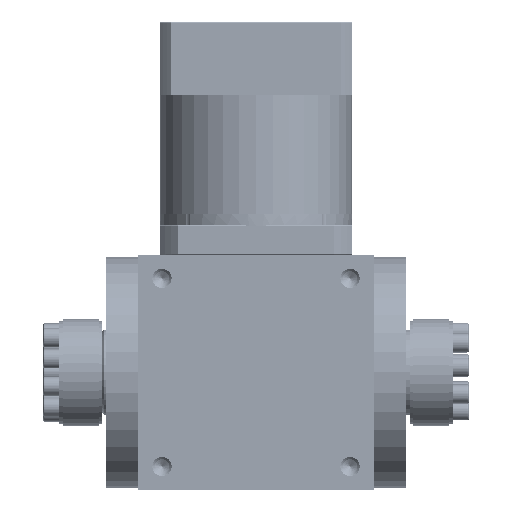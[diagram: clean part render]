
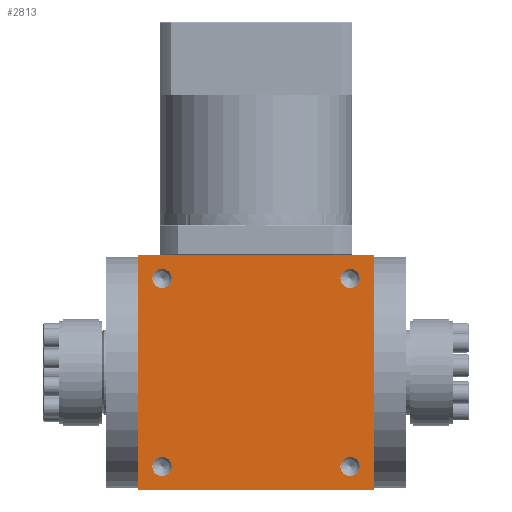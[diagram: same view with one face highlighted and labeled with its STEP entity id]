
A CAD part, front view. The second image highlights one B-rep face of the part: STEP entity #2813.
In plain terms, the highlighted planar face has unit normal (0, -1, 0).
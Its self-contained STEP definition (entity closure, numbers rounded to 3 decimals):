
#594 = DIRECTION ( 'NONE',  ( 1., 0., 0. ) ) ;
#786 = DIRECTION ( 'NONE',  ( 0., 1., 0. ) ) ;
#1439 = FACE_BOUND ( 'NONE', #98002, .T. ) ;
#2006 = EDGE_LOOP ( 'NONE', ( #13039, #17090 ) ) ;
#2813 = ADVANCED_FACE ( 'NONE', ( #124175, #54389, #1439, #92698, #41692 ), #84605, .F. ) ;
#3221 = EDGE_CURVE ( 'NONE', #75127, #5554, #11164, .T. ) ;
#3414 = CARTESIAN_POINT ( 'NONE',  ( -76.995, -34.318, 199. ) ) ;
#4735 = CARTESIAN_POINT ( 'NONE',  ( -120.995, -34.318, 155. ) ) ;
#5554 = VERTEX_POINT ( 'NONE', #57833 ) ;
#8090 = LINE ( 'NONE', #10720, #113641 ) ;
#10720 = CARTESIAN_POINT ( 'NONE',  ( -131.995, -34.318, 144. ) ) ;
#11164 = CIRCLE ( 'NONE', #21877, 4.5 ) ;
#12448 = VERTEX_POINT ( 'NONE', #99244 ) ;
#12496 = CARTESIAN_POINT ( 'NONE',  ( -116.495, -34.318, 155. ) ) ;
#12805 = DIRECTION ( 'NONE',  ( 1., 0., 0. ) ) ;
#13039 = ORIENTED_EDGE ( 'NONE', *, *, #3221, .F. ) ;
#13400 = VERTEX_POINT ( 'NONE', #12496 ) ;
#13509 = VERTEX_POINT ( 'NONE', #71578 ) ;
#13584 = CARTESIAN_POINT ( 'NONE',  ( -120.995, -34.318, 155. ) ) ;
#14230 = DIRECTION ( 'NONE',  ( -1., 0., 0. ) ) ;
#15851 = AXIS2_PLACEMENT_3D ( 'NONE', #4735, #95989, #67096 ) ;
#16870 = ORIENTED_EDGE ( 'NONE', *, *, #44601, .F. ) ;
#17090 = ORIENTED_EDGE ( 'NONE', *, *, #57151, .F. ) ;
#17635 = CARTESIAN_POINT ( 'NONE',  ( -131.995, -34.318, 144. ) ) ;
#18822 = AXIS2_PLACEMENT_3D ( 'NONE', #89912, #121397, #48333 ) ;
#21877 = AXIS2_PLACEMENT_3D ( 'NONE', #90250, #98994, #131143 ) ;
#23164 = CARTESIAN_POINT ( 'NONE',  ( -21.995, -34.318, 144. ) ) ;
#23714 = DIRECTION ( 'NONE',  ( -1., 0., 0. ) ) ;
#26852 = AXIS2_PLACEMENT_3D ( 'NONE', #13584, #55809, #14230 ) ;
#28463 = VERTEX_POINT ( 'NONE', #95257 ) ;
#28783 = LINE ( 'NONE', #41494, #87120 ) ;
#32042 = EDGE_CURVE ( 'NONE', #32759, #12448, #47104, .T. ) ;
#32439 = CARTESIAN_POINT ( 'NONE',  ( -21.995, -34.318, 254. ) ) ;
#32759 = VERTEX_POINT ( 'NONE', #34347 ) ;
#34347 = CARTESIAN_POINT ( 'NONE',  ( -125.495, -34.318, 243. ) ) ;
#34583 = EDGE_CURVE ( 'NONE', #131683, #38227, #118541, .T. ) ;
#37759 = DIRECTION ( 'NONE',  ( 0., -1., 0. ) ) ;
#38227 = VERTEX_POINT ( 'NONE', #23164 ) ;
#38609 = AXIS2_PLACEMENT_3D ( 'NONE', #115351, #73108, #126045 ) ;
#38651 = CARTESIAN_POINT ( 'NONE',  ( -120.995, -34.318, 243. ) ) ;
#38855 = ORIENTED_EDGE ( 'NONE', *, *, #32042, .F. ) ;
#39425 = ORIENTED_EDGE ( 'NONE', *, *, #57265, .F. ) ;
#39761 = ORIENTED_EDGE ( 'NONE', *, *, #61976, .F. ) ;
#41494 = CARTESIAN_POINT ( 'NONE',  ( -131.995, -34.318, 254. ) ) ;
#41692 = FACE_OUTER_BOUND ( 'NONE', #54765, .T. ) ;
#44601 = EDGE_CURVE ( 'NONE', #12448, #32759, #87539, .T. ) ;
#44610 = CARTESIAN_POINT ( 'NONE',  ( -131.995, -34.318, 144. ) ) ;
#47104 = CIRCLE ( 'NONE', #94224, 4.5 ) ;
#47171 = CARTESIAN_POINT ( 'NONE',  ( -32.995, -34.318, 243. ) ) ;
#48333 = DIRECTION ( 'NONE',  ( -1., 0., 0. ) ) ;
#49176 = DIRECTION ( 'NONE',  ( -1., 0., 0. ) ) ;
#54389 = FACE_BOUND ( 'NONE', #80270, .T. ) ;
#54765 = EDGE_LOOP ( 'NONE', ( #60775, #39425, #86863, #125560 ) ) ;
#55225 = CARTESIAN_POINT ( 'NONE',  ( -120.995, -34.318, 243. ) ) ;
#55809 = DIRECTION ( 'NONE',  ( 0., -1., 0. ) ) ;
#56815 = CIRCLE ( 'NONE', #26852, 4.5 ) ;
#57151 = EDGE_CURVE ( 'NONE', #5554, #75127, #70928, .T. ) ;
#57265 = EDGE_CURVE ( 'NONE', #38227, #101953, #109528, .T. ) ;
#57465 = CARTESIAN_POINT ( 'NONE',  ( -125.495, -34.318, 155. ) ) ;
#57833 = CARTESIAN_POINT ( 'NONE',  ( -28.495, -34.318, 243. ) ) ;
#59659 = AXIS2_PLACEMENT_3D ( 'NONE', #55225, #65276, #23714 ) ;
#60742 = DIRECTION ( 'NONE',  ( -1., 0., 0. ) ) ;
#60775 = ORIENTED_EDGE ( 'NONE', *, *, #115417, .F. ) ;
#61976 = EDGE_CURVE ( 'NONE', #118457, #13400, #78001, .T. ) ;
#65276 = DIRECTION ( 'NONE',  ( 0., -1., 0. ) ) ;
#66689 = AXIS2_PLACEMENT_3D ( 'NONE', #47171, #37759, #49176 ) ;
#66785 = AXIS2_PLACEMENT_3D ( 'NONE', #3414, #786, #12805 ) ;
#67096 = DIRECTION ( 'NONE',  ( -1., 0., 0. ) ) ;
#68691 = CARTESIAN_POINT ( 'NONE',  ( -131.995, -34.318, 254. ) ) ;
#69179 = VERTEX_POINT ( 'NONE', #68691 ) ;
#70928 = CIRCLE ( 'NONE', #66689, 4.5 ) ;
#71578 = CARTESIAN_POINT ( 'NONE',  ( -37.495, -34.318, 155. ) ) ;
#72643 = EDGE_LOOP ( 'NONE', ( #101106, #120719 ) ) ;
#73108 = DIRECTION ( 'NONE',  ( 0., -1., 0. ) ) ;
#74258 = EDGE_CURVE ( 'NONE', #28463, #13509, #76626, .T. ) ;
#75127 = VERTEX_POINT ( 'NONE', #92397 ) ;
#76626 = CIRCLE ( 'NONE', #18822, 4.5 ) ;
#76969 = CARTESIAN_POINT ( 'NONE',  ( -21.995, -34.318, 144. ) ) ;
#78001 = CIRCLE ( 'NONE', #15851, 4.5 ) ;
#80270 = EDGE_LOOP ( 'NONE', ( #38855, #16870 ) ) ;
#81195 = DIRECTION ( 'NONE',  ( 0., 0., 1. ) ) ;
#83377 = EDGE_CURVE ( 'NONE', #69179, #131683, #28783, .T. ) ;
#84605 = PLANE ( 'NONE',  #66785 ) ;
#86863 = ORIENTED_EDGE ( 'NONE', *, *, #34583, .F. ) ;
#87120 = VECTOR ( 'NONE', #594, 1000. ) ;
#87539 = CIRCLE ( 'NONE', #59659, 4.5 ) ;
#88100 = DIRECTION ( 'NONE',  ( -1., 0., 0. ) ) ;
#89912 = CARTESIAN_POINT ( 'NONE',  ( -32.995, -34.318, 155. ) ) ;
#90250 = CARTESIAN_POINT ( 'NONE',  ( -32.995, -34.318, 243. ) ) ;
#92397 = CARTESIAN_POINT ( 'NONE',  ( -37.495, -34.318, 243. ) ) ;
#92698 = FACE_BOUND ( 'NONE', #2006, .T. ) ;
#94224 = AXIS2_PLACEMENT_3D ( 'NONE', #38651, #100368, #60742 ) ;
#95257 = CARTESIAN_POINT ( 'NONE',  ( -28.495, -34.318, 155. ) ) ;
#95989 = DIRECTION ( 'NONE',  ( 0., -1., 0. ) ) ;
#98002 = EDGE_LOOP ( 'NONE', ( #39761, #113836 ) ) ;
#98994 = DIRECTION ( 'NONE',  ( 0., -1., 0. ) ) ;
#99244 = CARTESIAN_POINT ( 'NONE',  ( -116.495, -34.318, 243. ) ) ;
#100368 = DIRECTION ( 'NONE',  ( 0., -1., 0. ) ) ;
#101106 = ORIENTED_EDGE ( 'NONE', *, *, #111098, .F. ) ;
#101953 = VERTEX_POINT ( 'NONE', #44610 ) ;
#104944 = CIRCLE ( 'NONE', #38609, 4.5 ) ;
#109528 = LINE ( 'NONE', #17635, #124539 ) ;
#111098 = EDGE_CURVE ( 'NONE', #13509, #28463, #104944, .T. ) ;
#113641 = VECTOR ( 'NONE', #81195, 1000. ) ;
#113836 = ORIENTED_EDGE ( 'NONE', *, *, #129107, .F. ) ;
#115351 = CARTESIAN_POINT ( 'NONE',  ( -32.995, -34.318, 155. ) ) ;
#115417 = EDGE_CURVE ( 'NONE', #101953, #69179, #8090, .T. ) ;
#117877 = DIRECTION ( 'NONE',  ( 0., 0., -1. ) ) ;
#118457 = VERTEX_POINT ( 'NONE', #57465 ) ;
#118541 = LINE ( 'NONE', #76969, #124341 ) ;
#120719 = ORIENTED_EDGE ( 'NONE', *, *, #74258, .F. ) ;
#121397 = DIRECTION ( 'NONE',  ( 0., -1., 0. ) ) ;
#124175 = FACE_BOUND ( 'NONE', #72643, .T. ) ;
#124341 = VECTOR ( 'NONE', #117877, 1000. ) ;
#124539 = VECTOR ( 'NONE', #88100, 1000. ) ;
#125560 = ORIENTED_EDGE ( 'NONE', *, *, #83377, .F. ) ;
#126045 = DIRECTION ( 'NONE',  ( -1., 0., 0. ) ) ;
#129107 = EDGE_CURVE ( 'NONE', #13400, #118457, #56815, .T. ) ;
#131143 = DIRECTION ( 'NONE',  ( -1., 0., 0. ) ) ;
#131683 = VERTEX_POINT ( 'NONE', #32439 ) ;
